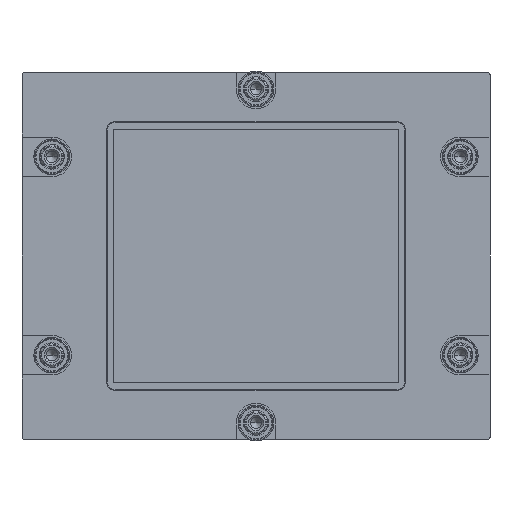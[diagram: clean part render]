
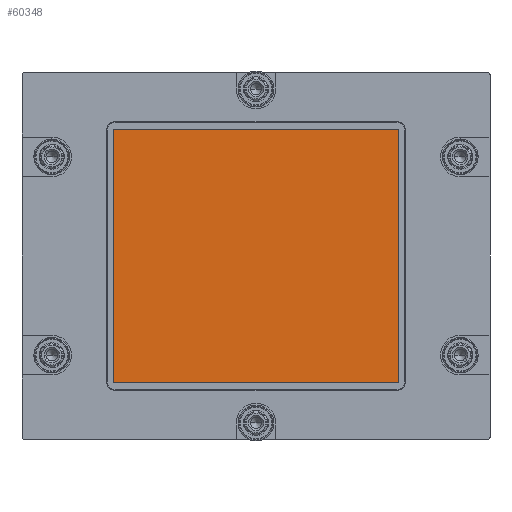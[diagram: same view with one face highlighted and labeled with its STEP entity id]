
A CAD part, front view. The second image highlights one B-rep face of the part: STEP entity #60348.
In plain terms, the highlighted planar face has unit normal (0, -1, 0).
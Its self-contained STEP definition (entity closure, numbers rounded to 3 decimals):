
#17204=DIRECTION('',(0.,0.,-1.));
#17205=VECTOR('',#17204,64.);
#17206=CARTESIAN_POINT('',(-36.,-0.15,32.));
#17207=LINE('',#17206,#17205);
#17208=DIRECTION('',(-1.,0.,0.));
#17209=VECTOR('',#17208,72.);
#17210=CARTESIAN_POINT('',(36.,-0.15,32.));
#17211=LINE('',#17210,#17209);
#17212=DIRECTION('',(0.,0.,1.));
#17213=VECTOR('',#17212,64.);
#17214=CARTESIAN_POINT('',(36.,-0.15,-32.));
#17215=LINE('',#17214,#17213);
#17216=DIRECTION('',(1.,0.,0.));
#17217=VECTOR('',#17216,72.);
#17218=CARTESIAN_POINT('',(-36.,-0.15,-32.));
#17219=LINE('',#17218,#17217);
#25149=CARTESIAN_POINT('',(-36.,-0.15,32.));
#25150=CARTESIAN_POINT('',(-36.,-0.15,-32.));
#25151=VERTEX_POINT('',#25149);
#25152=VERTEX_POINT('',#25150);
#25153=CARTESIAN_POINT('',(36.,-0.15,-32.));
#25154=VERTEX_POINT('',#25153);
#25155=CARTESIAN_POINT('',(36.,-0.15,32.));
#25156=VERTEX_POINT('',#25155);
#60337=CARTESIAN_POINT('',(0.,-0.15,0.));
#60338=DIRECTION('',(0.,-1.,0.));
#60339=DIRECTION('',(1.,0.,0.));
#60340=AXIS2_PLACEMENT_3D('',#60337,#60338,#60339);
#60341=PLANE('',#60340);
#60342=ORIENTED_EDGE('',*,*,#60289,.F.);
#60343=ORIENTED_EDGE('',*,*,#60304,.F.);
#60344=ORIENTED_EDGE('',*,*,#60318,.F.);
#60345=ORIENTED_EDGE('',*,*,#60331,.F.);
#60346=EDGE_LOOP('',(#60342,#60343,#60344,#60345));
#60347=FACE_OUTER_BOUND('',#60346,.F.);
#60348=ADVANCED_FACE('',(#60347),#60341,.T.);
#60289=EDGE_CURVE('',#25151,#25152,#17207,.T.);
#60304=EDGE_CURVE('',#25156,#25151,#17211,.T.);
#60318=EDGE_CURVE('',#25154,#25156,#17215,.T.);
#60331=EDGE_CURVE('',#25152,#25154,#17219,.T.);
